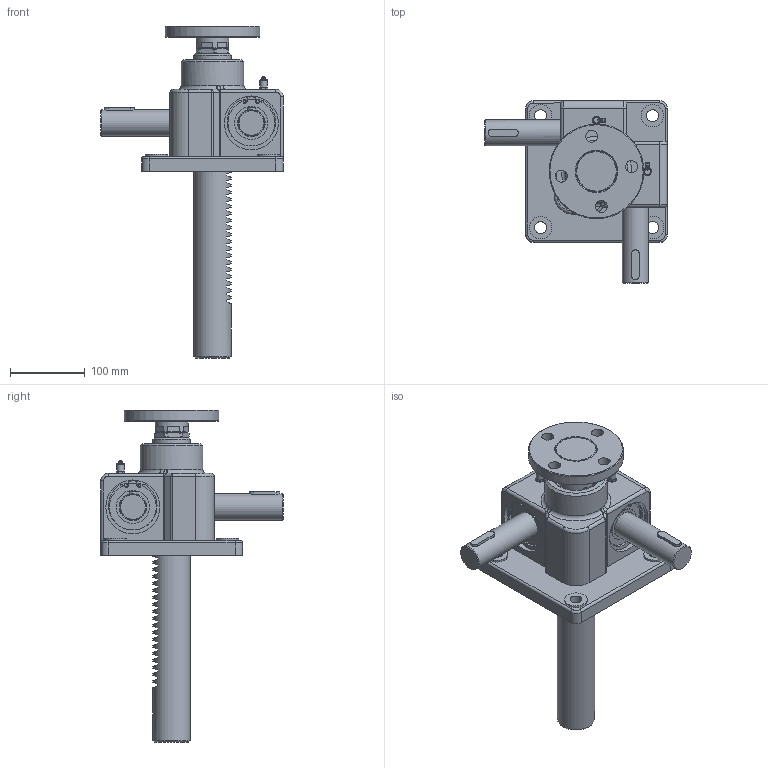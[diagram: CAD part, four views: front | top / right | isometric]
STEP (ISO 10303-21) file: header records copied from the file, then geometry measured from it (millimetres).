
FILE_DESCRIPTION(('STEP AP203'),'1');
FILE_NAME('SP1-10000F-250ST.stp','2016-08-05T05:52:16',(' '),(' '),'Spatial InterOp 3D',' ',' ');
FILE_SCHEMA(('CONFIG_CONTROL_DESIGN'));
Length unit declared in the file: millimetre
Products named in the file (21): SP1-10000F-250ST; Rack Gear(SP-10000F); Flange-Part; Flange; Joint; Nut; Body-Part; Gear Box(SP-10000); RJ05-4SCJ-610X600-100ST_CAP; LABEL-B.1; ___; 파트18; __
Assembly tree (26 placements, depth 5):
  SP1-10000F-250ST
    Rack Gear(SP-10000F)
    Flange-Part
      Flange
      Joint
      Nut
    Body-Part
      (unnamed)  x2
      (unnamed)  x2
      (unnamed)
      (unnamed)
      (unnamed)  x2
      (unnamed)  x2
      (unnamed)  x2
      (unnamed)  x2
      Gear Box(SP-10000)
    __
      ___
        RJ05-4SCJ-610X600-100ST_CAP
          LABEL-B.1
        파트18
Bounding box: 245.11 x 245.24 x 445 mm (x, y, z)
Volume: 2710644.7 mm3; surface area: 475163.9 mm2
Topology: 28 solids, 28 shells, 2653 faces, 7222 edges, 4614 vertices
Faces by surface type: plane 2020, cylinder 339, sphere 96, torus 62, extrusion 46, revolution 42, cone 34, bspline 14
Full cylindrical faces by diameter (mm): 3.817 x4, 4.211 x2, 4.8 x2, 8 x2, 9.886 x2, 16 x8, 28 x1, 29 x2, 30 x6, 32 x1, 35 x4, 39 x2, 44 x1, 44.54 x4, 45 x1, 50 x3, 54 x1, 55 x2, 60 x4, 62.72 x4, 65 x2, 68 x2, 72 x4, 72.4 x2, 75 x2, 84 x1, 127 x1
Entity records: 81479 total; most frequent: CARTESIAN_POINT 16902, ORIENTED_EDGE 13388, DIRECTION 12494, EDGE_CURVE 6694, VECTOR 5619, LINE 5592, VERTEX_POINT 4382, AXIS2_PLACEMENT_3D 3427
